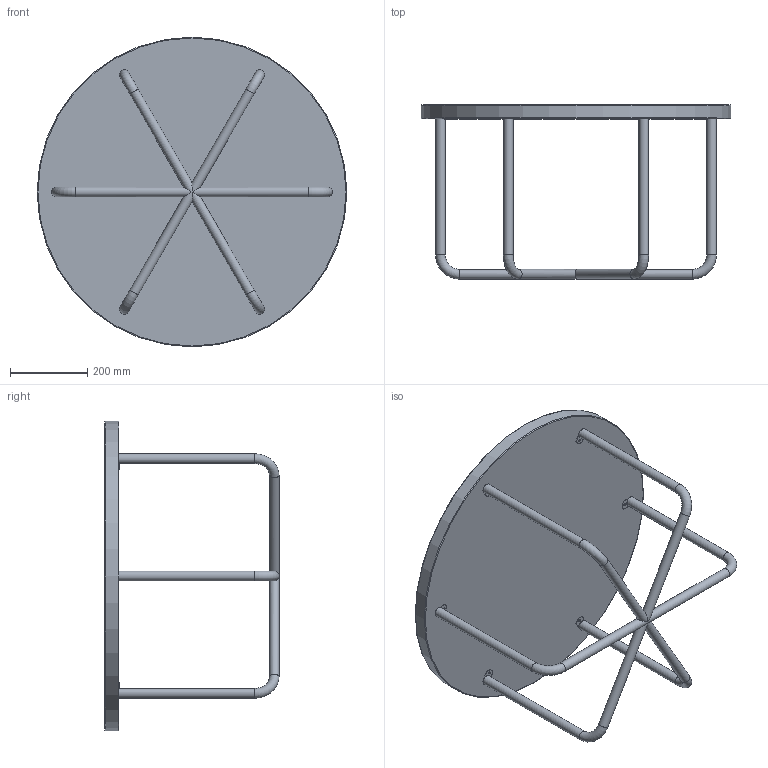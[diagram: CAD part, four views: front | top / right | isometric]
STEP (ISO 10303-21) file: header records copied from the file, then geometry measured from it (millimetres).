
FILE_DESCRIPTION(/* description */ ('','CAx-IF Rec.Pracs.---Representation and Presentation of Product Manufacturing Information (PMI)---4.0---2014-10-13'),/* implementation_level */ '2;1');
FILE_NAME(/* name */ 'Pinwheel Coffee Table.step',/* time_stamp */ '2025-03-04T09:20:44+13:00',/* author */ (''),/* organization */ (''),/* preprocessor_version */ 'ST-DEVELOPER v20',/* originating_system */ 'Autodesk Translation Framework v13.20.0.188',/* authorisation */ '');
FILE_SCHEMA (('AP242_MANAGED_MODEL_BASED_3D_ENGINEERING_MIM_LF { 1 0 10303 442 1 1 4 }'));
Length unit declared in the file: millimetre
Products named in the file (2): Pinwheel Coffee Table; D Bracket
Assembly tree (6 placements, depth 2):
  Pinwheel Coffee Table
    D Bracket  x6
Bounding box: 800 x 450 x 800 mm (x, y, z)
Volume: 8866407.6 mm3; surface area: 1491640.6 mm2
Topology: 8 solids, 8 shells, 75 faces, 150 edges, 92 vertices
Faces by surface type: plane 39, cylinder 26, torus 10
Full cylindrical faces by diameter (mm): 5 x6, 25 x12, 776 x1, 800 x1
Entity records: 1122 total; most frequent: DIRECTION 223, CARTESIAN_POINT 166, ORIENTED_EDGE 150, AXIS2_PLACEMENT_3D 99, EDGE_CURVE 75, CIRCLE 44, EDGE_LOOP 43, VERTEX_POINT 42
